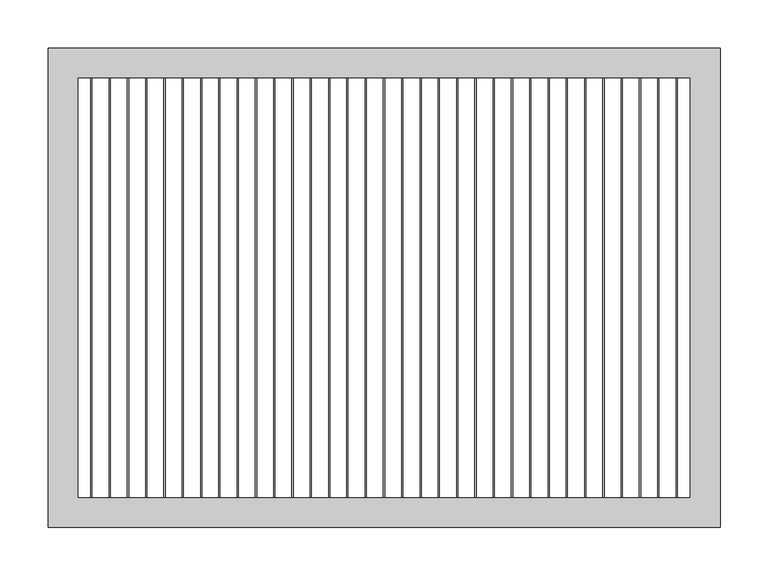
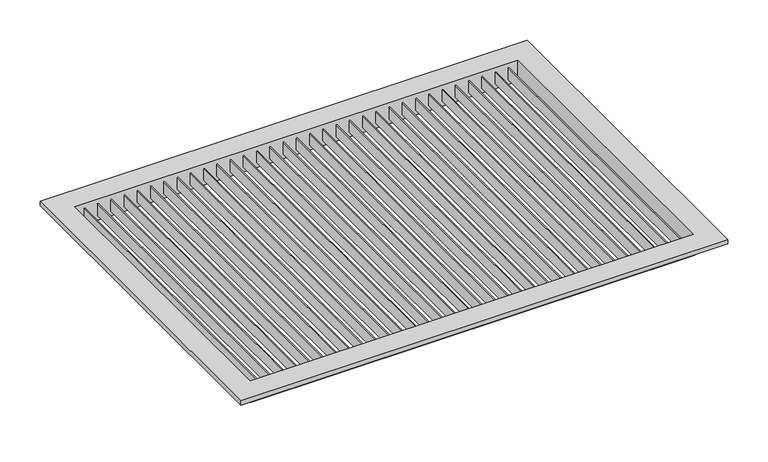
"""IFC4 building model written with IfcOpenShell, lengths in millimetres: air terminal geometry, Louvered Supply Grille : Louvered Supply Grille."""

from ifc_helpers import new_model, si_unit, frame, origin, place, context, project, spatial, polyline, outline, extrude, faceted_brep, source, transform, mapped, element, save


def air_terminal_f0eebf6e(model_context):
    return source(origin(), model_context, "Body", "SolidModel", [
        faceted_brep([(348.4125, 248.4125, 4.7625), (348.4125, 248.4125, 0.0), (348.4125, -248.4125, 0.0), (348.4125, -248.4125, 4.7625), (319.8375, 219.8375, -25.4), (319.8375, 219.8375, 4.7625), (319.8375, -219.8375, 4.7625), (319.8375, -219.8375, -25.4), (318.25, 218.25, 6.35), (318.25, 218.25, -25.4), (318.25, -218.25, -25.4), (318.25, -218.25, 6.35), (350.0, 250.0, 0.0), (350.0, 250.0, 6.35), (350.0, -250.0, 6.35), (350.0, -250.0, 0.0), (-348.4125, -248.4125, 0.0), (-348.4125, -248.4125, 4.7625), (-319.8375, -219.8375, 4.7625), (-319.8375, -219.8375, -25.4), (-318.25, -218.25, -25.4), (-318.25, -218.25, 6.35), (-350.0, -250.0, 6.35), (-350.0, -250.0, 0.0), (-348.4125, 248.4125, 0.0), (-348.4125, 248.4125, 4.7625), (-319.8375, 219.8375, 4.7625), (-319.8375, 219.8375, -25.4), (-318.25, 218.25, -25.4), (-318.25, 218.25, 6.35), (-350.0, 250.0, 6.35), (-350.0, 250.0, 0.0)], [[[0, 1, 2, 3]], [[4, 5, 6, 7]], [[8, 9, 10, 11]], [[12, 13, 14, 15]], [[3, 2, 16, 17]], [[7, 6, 18, 19]], [[11, 10, 20, 21]], [[15, 14, 22, 23]], [[17, 16, 24, 25]], [[19, 18, 26, 27]], [[21, 20, 28, 29]], [[23, 22, 30, 31]], [[15, 23, 31, 12], [1, 24, 16, 2]], [[25, 24, 1, 0]], [[3, 17, 25, 0], [5, 26, 18, 6]], [[27, 26, 5, 4]], [[7, 19, 27, 4], [9, 28, 20, 10]], [[29, 28, 9, 8]], [[13, 30, 22, 14], [11, 21, 29, 8]], [[31, 30, 13, 12]]]),
        extrude(outline(polyline([(305.3953125, -218.25), (304.2046875, -218.25), (304.2046875, 218.25), (305.3953125, 218.25), (305.3953125, -218.25)])), frame((0.0, 0.0, -17.4625), z_axis=(0.0, 0.0, 1.0), x_axis=(1.0, 0.0, 0.0)), (0.0, 0.0, 1.0), 17.4625),
        extrude(outline(polyline([(286.3453125, -218.25), (285.1546875, -218.25), (285.1546875, 218.25), (286.3453125, 218.25), (286.3453125, -218.25)])), frame((0.0, 0.0, -17.4625), z_axis=(0.0, 0.0, 1.0), x_axis=(1.0, 0.0, 0.0)), (0.0, 0.0, 1.0), 17.4625),
        extrude(outline(polyline([(267.2953125, -218.25), (266.1046875, -218.25), (266.1046875, 218.25), (267.2953125, 218.25), (267.2953125, -218.25)])), frame((0.0, 0.0, -17.4625), z_axis=(0.0, 0.0, 1.0), x_axis=(1.0, 0.0, 0.0)), (0.0, 0.0, 1.0), 17.4625),
        extrude(outline(polyline([(248.2453125, -218.25), (247.0546875, -218.25), (247.0546875, 218.25), (248.2453125, 218.25), (248.2453125, -218.25)])), frame((0.0, 0.0, -17.4625), z_axis=(0.0, 0.0, 1.0), x_axis=(1.0, 0.0, 0.0)), (0.0, 0.0, 1.0), 17.4625),
        extrude(outline(polyline([(229.1953125, -218.25), (228.0046875, -218.25), (228.0046875, 218.25), (229.1953125, 218.25), (229.1953125, -218.25)])), frame((0.0, 0.0, -17.4625), z_axis=(0.0, 0.0, 1.0), x_axis=(1.0, 0.0, 0.0)), (0.0, 0.0, 1.0), 17.4625),
        extrude(outline(polyline([(210.1453125, -218.25), (208.9546875, -218.25), (208.9546875, 218.25), (210.1453125, 218.25), (210.1453125, -218.25)])), frame((0.0, 0.0, -17.4625), z_axis=(0.0, 0.0, 1.0), x_axis=(1.0, 0.0, 0.0)), (0.0, 0.0, 1.0), 17.4625),
        extrude(outline(polyline([(191.0953125, -218.25), (189.9046875, -218.25), (189.9046875, 218.25), (191.0953125, 218.25), (191.0953125, -218.25)])), frame((0.0, 0.0, -17.4625), z_axis=(0.0, 0.0, 1.0), x_axis=(1.0, 0.0, 0.0)), (0.0, 0.0, 1.0), 17.4625),
        extrude(outline(polyline([(172.0453125, -218.25), (170.8546875, -218.25), (170.8546875, 218.25), (172.0453125, 218.25), (172.0453125, -218.25)])), frame((0.0, 0.0, -17.4625), z_axis=(0.0, 0.0, 1.0), x_axis=(1.0, 0.0, 0.0)), (0.0, 0.0, 1.0), 17.4625),
        extrude(outline(polyline([(152.9953125, -218.25), (151.8046875, -218.25), (151.8046875, 218.25), (152.9953125, 218.25), (152.9953125, -218.25)])), frame((0.0, 0.0, -17.4625), z_axis=(0.0, 0.0, 1.0), x_axis=(1.0, 0.0, 0.0)), (0.0, 0.0, 1.0), 17.4625),
        extrude(outline(polyline([(133.9453125, -218.25), (132.7546875, -218.25), (132.7546875, 218.25), (133.9453125, 218.25), (133.9453125, -218.25)])), frame((0.0, 0.0, -17.4625), z_axis=(0.0, 0.0, 1.0), x_axis=(1.0, 0.0, 0.0)), (0.0, 0.0, 1.0), 17.4625),
        extrude(outline(polyline([(114.8953125, -218.25), (113.7046875, -218.25), (113.7046875, 218.25), (114.8953125, 218.25), (114.8953125, -218.25)])), frame((0.0, 0.0, -17.4625), z_axis=(0.0, 0.0, 1.0), x_axis=(1.0, 0.0, 0.0)), (0.0, 0.0, 1.0), 17.4625),
        extrude(outline(polyline([(95.8453125, -218.25), (94.6546875, -218.25), (94.6546875, 218.25), (95.8453125, 218.25), (95.8453125, -218.25)])), frame((0.0, 0.0, -17.4625), z_axis=(0.0, 0.0, 1.0), x_axis=(1.0, 0.0, 0.0)), (0.0, 0.0, 1.0), 17.4625),
        extrude(outline(polyline([(76.7953125, -218.25), (75.6046875, -218.25), (75.6046875, 218.25), (76.7953125, 218.25), (76.7953125, -218.25)])), frame((0.0, 0.0, -17.4625), z_axis=(0.0, 0.0, 1.0), x_axis=(1.0, 0.0, 0.0)), (0.0, 0.0, 1.0), 17.4625),
        extrude(outline(polyline([(57.7453125, -218.25), (56.5546875, -218.25), (56.5546875, 218.25), (57.7453125, 218.25), (57.7453125, -218.25)])), frame((0.0, 0.0, -17.4625), z_axis=(0.0, 0.0, 1.0), x_axis=(1.0, 0.0, 0.0)), (0.0, 0.0, 1.0), 17.4625),
        extrude(outline(polyline([(38.6953125, -218.25), (37.5046875, -218.25), (37.5046875, 218.25), (38.6953125, 218.25), (38.6953125, -218.25)])), frame((0.0, 0.0, -17.4625), z_axis=(0.0, 0.0, 1.0), x_axis=(1.0, 0.0, 0.0)), (0.0, 0.0, 1.0), 17.4625),
        extrude(outline(polyline([(19.6453125, -218.25), (18.4546875, -218.25), (18.4546875, 218.25), (19.6453125, 218.25), (19.6453125, -218.25)])), frame((0.0, 0.0, -17.4625), z_axis=(0.0, 0.0, 1.0), x_axis=(1.0, 0.0, 0.0)), (0.0, 0.0, 1.0), 17.4625),
        extrude(outline(polyline([(0.5953125, -218.25), (-0.5953125, -218.25), (-0.5953125, 218.25), (0.5953125, 218.25), (0.5953125, -218.25)])), frame((0.0, 0.0, -17.4625), z_axis=(0.0, 0.0, 1.0), x_axis=(1.0, 0.0, 0.0)), (0.0, 0.0, 1.0), 17.4625),
        extrude(outline(polyline([(-18.4546875, -218.25), (-19.6453125, -218.25), (-19.6453125, 218.25), (-18.4546875, 218.25), (-18.4546875, -218.25)])), frame((0.0, 0.0, -17.4625), z_axis=(0.0, 0.0, 1.0), x_axis=(1.0, 0.0, 0.0)), (0.0, 0.0, 1.0), 17.4625),
        extrude(outline(polyline([(-37.5046875, -218.25), (-38.6953125, -218.25), (-38.6953125, 218.25), (-37.5046875, 218.25), (-37.5046875, -218.25)])), frame((0.0, 0.0, -17.4625), z_axis=(0.0, 0.0, 1.0), x_axis=(1.0, 0.0, 0.0)), (0.0, 0.0, 1.0), 17.4625),
        extrude(outline(polyline([(-56.5546875, -218.25), (-57.7453125, -218.25), (-57.7453125, 218.25), (-56.5546875, 218.25), (-56.5546875, -218.25)])), frame((0.0, 0.0, -17.4625), z_axis=(0.0, 0.0, 1.0), x_axis=(1.0, 0.0, 0.0)), (0.0, 0.0, 1.0), 17.4625),
        extrude(outline(polyline([(-75.6046875, -218.25), (-76.7953125, -218.25), (-76.7953125, 218.25), (-75.6046875, 218.25), (-75.6046875, -218.25)])), frame((0.0, 0.0, -17.4625), z_axis=(0.0, 0.0, 1.0), x_axis=(1.0, 0.0, 0.0)), (0.0, 0.0, 1.0), 17.4625),
        extrude(outline(polyline([(-94.6546875, -218.25), (-95.8453125, -218.25), (-95.8453125, 218.25), (-94.6546875, 218.25), (-94.6546875, -218.25)])), frame((0.0, 0.0, -17.4625), z_axis=(0.0, 0.0, 1.0), x_axis=(1.0, 0.0, 0.0)), (0.0, 0.0, 1.0), 17.4625),
        extrude(outline(polyline([(-113.7046875, -218.25), (-114.8953125, -218.25), (-114.8953125, 218.25), (-113.7046875, 218.25), (-113.7046875, -218.25)])), frame((0.0, 0.0, -17.4625), z_axis=(0.0, 0.0, 1.0), x_axis=(1.0, 0.0, 0.0)), (0.0, 0.0, 1.0), 17.4625),
        extrude(outline(polyline([(-132.7546875, -218.25), (-133.9453125, -218.25), (-133.9453125, 218.25), (-132.7546875, 218.25), (-132.7546875, -218.25)])), frame((0.0, 0.0, -17.4625), z_axis=(0.0, 0.0, 1.0), x_axis=(1.0, 0.0, 0.0)), (0.0, 0.0, 1.0), 17.4625),
        extrude(outline(polyline([(-151.8046875, -218.25), (-152.9953125, -218.25), (-152.9953125, 218.25), (-151.8046875, 218.25), (-151.8046875, -218.25)])), frame((0.0, 0.0, -17.4625), z_axis=(0.0, 0.0, 1.0), x_axis=(1.0, 0.0, 0.0)), (0.0, 0.0, 1.0), 17.4625),
        extrude(outline(polyline([(-170.8546875, -218.25), (-172.0453125, -218.25), (-172.0453125, 218.25), (-170.8546875, 218.25), (-170.8546875, -218.25)])), frame((0.0, 0.0, -17.4625), z_axis=(0.0, 0.0, 1.0), x_axis=(1.0, 0.0, 0.0)), (0.0, 0.0, 1.0), 17.4625),
        extrude(outline(polyline([(-189.9046875, -218.25), (-191.0953125, -218.25), (-191.0953125, 218.25), (-189.9046875, 218.25), (-189.9046875, -218.25)])), frame((0.0, 0.0, -17.4625), z_axis=(0.0, 0.0, 1.0), x_axis=(1.0, 0.0, 0.0)), (0.0, 0.0, 1.0), 17.4625),
        extrude(outline(polyline([(-208.9546875, -218.25), (-210.1453125, -218.25), (-210.1453125, 218.25), (-208.9546875, 218.25), (-208.9546875, -218.25)])), frame((0.0, 0.0, -17.4625), z_axis=(0.0, 0.0, 1.0), x_axis=(1.0, 0.0, 0.0)), (0.0, 0.0, 1.0), 17.4625),
        extrude(outline(polyline([(-228.0046875, -218.25), (-229.1953125, -218.25), (-229.1953125, 218.25), (-228.0046875, 218.25), (-228.0046875, -218.25)])), frame((0.0, 0.0, -17.4625), z_axis=(0.0, 0.0, 1.0), x_axis=(1.0, 0.0, 0.0)), (0.0, 0.0, 1.0), 17.4625),
        extrude(outline(polyline([(-247.0546875, -218.25), (-248.2453125, -218.25), (-248.2453125, 218.25), (-247.0546875, 218.25), (-247.0546875, -218.25)])), frame((0.0, 0.0, -17.4625), z_axis=(0.0, 0.0, 1.0), x_axis=(1.0, 0.0, 0.0)), (0.0, 0.0, 1.0), 17.4625),
        extrude(outline(polyline([(-266.1046875, -218.25), (-267.2953125, -218.25), (-267.2953125, 218.25), (-266.1046875, 218.25), (-266.1046875, -218.25)])), frame((0.0, 0.0, -17.4625), z_axis=(0.0, 0.0, 1.0), x_axis=(1.0, 0.0, 0.0)), (0.0, 0.0, 1.0), 17.4625),
        extrude(outline(polyline([(-285.1546875, -218.25), (-286.3453125, -218.25), (-286.3453125, 218.25), (-285.1546875, 218.25), (-285.1546875, -218.25)])), frame((0.0, 0.0, -17.4625), z_axis=(0.0, 0.0, 1.0), x_axis=(1.0, 0.0, 0.0)), (0.0, 0.0, 1.0), 17.4625),
        extrude(outline(polyline([(-304.2046875, -218.25), (-305.3953125, -218.25), (-305.3953125, 218.25), (-304.2046875, 218.25), (-304.2046875, -218.25)])), frame((0.0, 0.0, -17.4625), z_axis=(0.0, 0.0, 1.0), x_axis=(1.0, 0.0, 0.0)), (0.0, 0.0, 1.0), 17.4625),
    ])


if __name__ == "__main__":
    model = new_model("IFC4")
    model_context = context("Model", 3, world=origin())
    ifc_project = project(units=[si_unit("LENGTHUNIT", "METRE", prefix="MILLI")], contexts=[model_context])
    site = spatial("IfcSite", under=ifc_project)
    building = spatial("IfcBuilding", under=site)
    placement = place(None, origin())
    air_terminal_shape = air_terminal_f0eebf6e(model_context)
    element("IfcAirTerminal", 1, ObjectType="Louvered Supply Grille : Louvered Supply Grille", at=placement, inside=building, context=model_context, shape_type="MappedRepresentation", body=[
        mapped(air_terminal_shape, transform((0.0, 0.0, 0.0), x_axis=(1.0, 0.0, 0.0), y_axis=(0.0, 1.0, 0.0), z_axis=(0.0, 0.0, 1.0))),
    ])
    save(model, "model.ifc")
